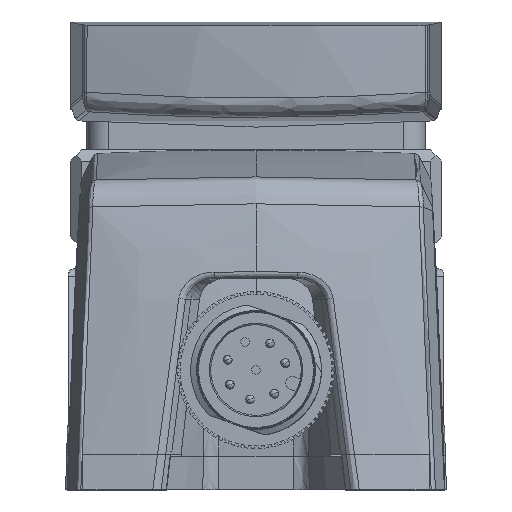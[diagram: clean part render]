
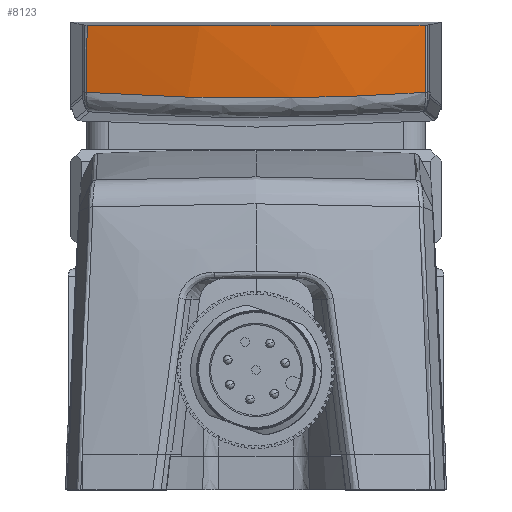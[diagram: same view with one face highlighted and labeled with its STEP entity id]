
A CAD part, front view. The second image highlights one B-rep face of the part: STEP entity #8123.
In plain terms, the highlighted toroidal (fillet/blend) face has major radius 39.939 mm and minor radius 100 mm.
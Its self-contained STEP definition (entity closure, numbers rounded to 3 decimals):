
#430 = CARTESIAN_POINT ( 'NONE',  ( 199.103, -26.376, 122.836 ) ) ;
#431 = CARTESIAN_POINT ( 'NONE',  ( 199.111, -26.162, 120.784 ) ) ;
#436 = CARTESIAN_POINT ( 'NONE',  ( 199.098, -26.524, 124.895 ) ) ;
#437 = CARTESIAN_POINT ( 'NONE',  ( 199.094, -26.606, 126.956 ) ) ;
#4319 = EDGE_LOOP ( 'NONE', ( #29521, #29529, #29888, #29883 ) ) ;
#7129 = CARTESIAN_POINT ( 'NONE',  ( 168.114, -26.606, 126.956 ) ) ;
#7248 = CARTESIAN_POINT ( 'NONE',  ( 199.094, -26.606, 126.956 ) ) ;
#7249 = CARTESIAN_POINT ( 'NONE',  ( 199.111, -26.162, 120.784 ) ) ;
#7261 = CARTESIAN_POINT ( 'NONE',  ( 168.097, -26.162, 120.784 ) ) ;
#8123 = ADVANCED_FACE ( 'NONE', ( #32666 ), #10085, .T. ) ;
#10085 = TOROIDAL_SURFACE ( 'NONE', #11181, -39.939, 100. ) ;
#11181 = AXIS2_PLACEMENT_3D ( 'NONE', #32667, #32658, #32669 ) ;
#16785 = B_SPLINE_CURVE_WITH_KNOTS ( 'NONE', 3,
 ( #25886, #25885, #25870, #25887, #25888, #25889, #25890, #25891, #25892, #25893, #25894, #25895 ),
 .UNSPECIFIED., .F., .F.,
 ( 4, 2, 2, 2, 2, 4 ),
 ( 0., 0.008, 0.016, 0.02, 0.024, 0.032 ),
 .UNSPECIFIED. ) ;
#16829 = B_SPLINE_CURVE_WITH_KNOTS ( 'NONE', 3,
 ( #25871, #25846, #25864, #25873, #25874, #25875, #25876, #25877, #25878, #25879, #25880, #25881, #25882, #25883 ),
 .UNSPECIFIED., .F., .F.,
 ( 4, 2, 2, 2, 2, 2, 4 ),
 ( 0., 0.008, 0.012, 0.014, 0.016, 0.024, 0.032 ),
 .UNSPECIFIED. ) ;
#17316 = B_SPLINE_CURVE_WITH_KNOTS ( 'NONE', 3,
 ( #431, #430, #436, #437 ),
 .UNSPECIFIED., .F., .F.,
 ( 4, 4 ),
 ( 0., 0.006 ),
 .UNSPECIFIED. ) ;
#17491 = B_SPLINE_CURVE_WITH_KNOTS ( 'NONE', 3,
 ( #20545, #20535, #20550, #20551 ),
 .UNSPECIFIED., .F., .F.,
 ( 4, 4 ),
 ( 0., 0.006 ),
 .UNSPECIFIED. ) ;
#20535 = CARTESIAN_POINT ( 'NONE',  ( 168.111, -26.524, 124.895 ) ) ;
#20545 = CARTESIAN_POINT ( 'NONE',  ( 168.114, -26.606, 126.956 ) ) ;
#20550 = CARTESIAN_POINT ( 'NONE',  ( 168.105, -26.376, 122.836 ) ) ;
#20551 = CARTESIAN_POINT ( 'NONE',  ( 168.097, -26.162, 120.784 ) ) ;
#25846 = CARTESIAN_POINT ( 'NONE',  ( 170.637, -26.829, 120.615 ) ) ;
#25864 = CARTESIAN_POINT ( 'NONE',  ( 173.204, -27.328, 120.486 ) ) ;
#25870 = CARTESIAN_POINT ( 'NONE',  ( 194., -27.789, 126.946 ) ) ;
#25871 = CARTESIAN_POINT ( 'NONE',  ( 168.097, -26.162, 120.784 ) ) ;
#25873 = CARTESIAN_POINT ( 'NONE',  ( 177.095, -27.83, 120.356 ) ) ;
#25874 = CARTESIAN_POINT ( 'NONE',  ( 178.399, -27.955, 120.323 ) ) ;
#25875 = CARTESIAN_POINT ( 'NONE',  ( 180.366, -28.081, 120.291 ) ) ;
#25876 = CARTESIAN_POINT ( 'NONE',  ( 181.024, -28.112, 120.282 ) ) ;
#25877 = CARTESIAN_POINT ( 'NONE',  ( 182.337, -28.153, 120.272 ) ) ;
#25878 = CARTESIAN_POINT ( 'NONE',  ( 182.992, -28.163, 120.269 ) ) ;
#25879 = CARTESIAN_POINT ( 'NONE',  ( 186.263, -28.161, 120.27 ) ) ;
#25880 = CARTESIAN_POINT ( 'NONE',  ( 188.859, -27.992, 120.314 ) ) ;
#25881 = CARTESIAN_POINT ( 'NONE',  ( 194.014, -27.326, 120.487 ) ) ;
#25882 = CARTESIAN_POINT ( 'NONE',  ( 196.573, -26.829, 120.615 ) ) ;
#25883 = CARTESIAN_POINT ( 'NONE',  ( 199.111, -26.162, 120.784 ) ) ;
#25885 = CARTESIAN_POINT ( 'NONE',  ( 196.556, -27.284, 126.95 ) ) ;
#25886 = CARTESIAN_POINT ( 'NONE',  ( 199.094, -26.606, 126.956 ) ) ;
#25887 = CARTESIAN_POINT ( 'NONE',  ( 188.855, -28.466, 126.94 ) ) ;
#25888 = CARTESIAN_POINT ( 'NONE',  ( 186.266, -28.637, 126.939 ) ) ;
#25889 = CARTESIAN_POINT ( 'NONE',  ( 182.357, -28.641, 126.938 ) ) ;
#25890 = CARTESIAN_POINT ( 'NONE',  ( 181.05, -28.599, 126.939 ) ) ;
#25891 = CARTESIAN_POINT ( 'NONE',  ( 178.427, -28.43, 126.94 ) ) ;
#25892 = CARTESIAN_POINT ( 'NONE',  ( 177.119, -28.302, 126.941 ) ) ;
#25893 = CARTESIAN_POINT ( 'NONE',  ( 173.223, -27.793, 126.946 ) ) ;
#25894 = CARTESIAN_POINT ( 'NONE',  ( 170.654, -27.284, 126.95 ) ) ;
#25895 = CARTESIAN_POINT ( 'NONE',  ( 168.114, -26.606, 126.956 ) ) ;
#26232 = EDGE_CURVE ( 'NONE', #30910, #30898, #16829, .T. ) ;
#26233 = EDGE_CURVE ( 'NONE', #30897, #30778, #16785, .T. ) ;
#26767 = EDGE_CURVE ( 'NONE', #30898, #30897, #17316, .T. ) ;
#26876 = EDGE_CURVE ( 'NONE', #30778, #30910, #17491, .T. ) ;
#29521 = ORIENTED_EDGE ( 'NONE', *, *, #26233, .T. ) ;
#29529 = ORIENTED_EDGE ( 'NONE', *, *, #26876, .T. ) ;
#29883 = ORIENTED_EDGE ( 'NONE', *, *, #26767, .T. ) ;
#29888 = ORIENTED_EDGE ( 'NONE', *, *, #26232, .T. ) ;
#30778 = VERTEX_POINT ( 'NONE', #7129 ) ;
#30897 = VERTEX_POINT ( 'NONE', #7248 ) ;
#30898 = VERTEX_POINT ( 'NONE', #7249 ) ;
#30910 = VERTEX_POINT ( 'NONE', #7261 ) ;
#32658 = DIRECTION ( 'NONE',  ( 0., 0., -1. ) ) ;
#32666 = FACE_OUTER_BOUND ( 'NONE', #4319, .T. ) ;
#32667 = CARTESIAN_POINT ( 'NONE',  ( 183.604, 31.35, 130.726 ) ) ;
#32669 = DIRECTION ( 'NONE',  ( -1., 0., 0. ) ) ;
